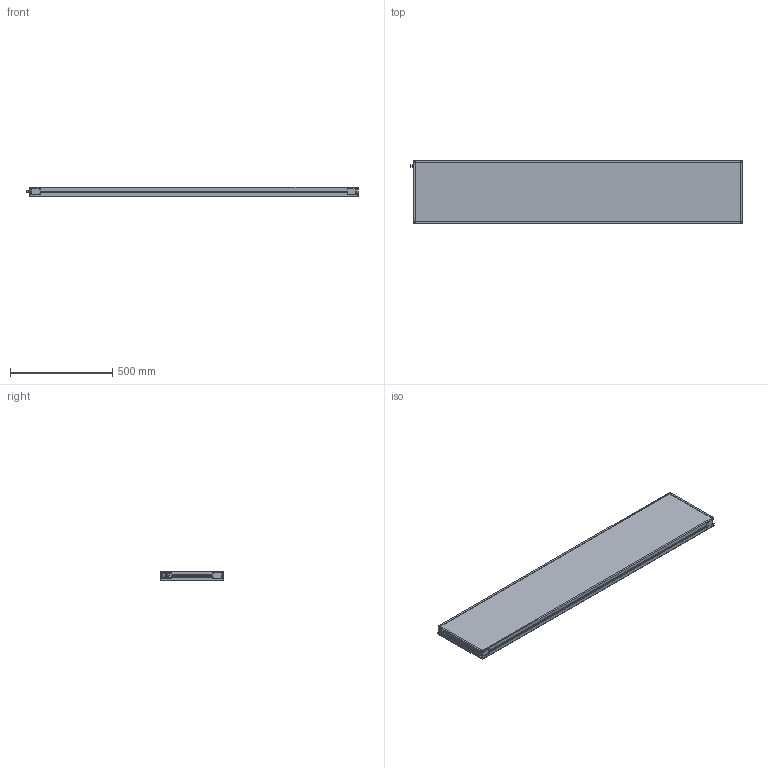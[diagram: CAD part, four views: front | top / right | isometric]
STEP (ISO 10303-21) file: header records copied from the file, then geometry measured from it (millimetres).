
FILE_DESCRIPTION (( 'STEP AP214' ), '1' );
FILE_NAME ('MBACK-xxxx-xxx-M1_CLIENT300x1600.STEP', '2022-03-31T16:00:59', ( '' ), ( '' ), 'SwSTEP 2.0', 'SolidWorks 2020', '' );
FILE_SCHEMA (( 'AUTOMOTIVE_DESIGN' ));
Length unit declared in the file: millimetre
Products named in the file (1): MBACK-xxxx-xxx-M1_CLIENT300x1600
Bounding box: 1625.9 x 308 x 45.5 mm (x, y, z)
Volume: 20570680 mm3; surface area: 1245014.1 mm2
Topology: 1 solids, 1 shells, 442 faces, 1144 edges, 760 vertices
Faces by surface type: plane 249, cylinder 105, bspline 80, cone 8
Entity records: 17236 total; most frequent: CARTESIAN_POINT 6699, ORIENTED_EDGE 2288, DIRECTION 1936, EDGE_CURVE 1144, VERTEX_POINT 760, LINE 758, VECTOR 758, AXIS2_PLACEMENT_3D 589
